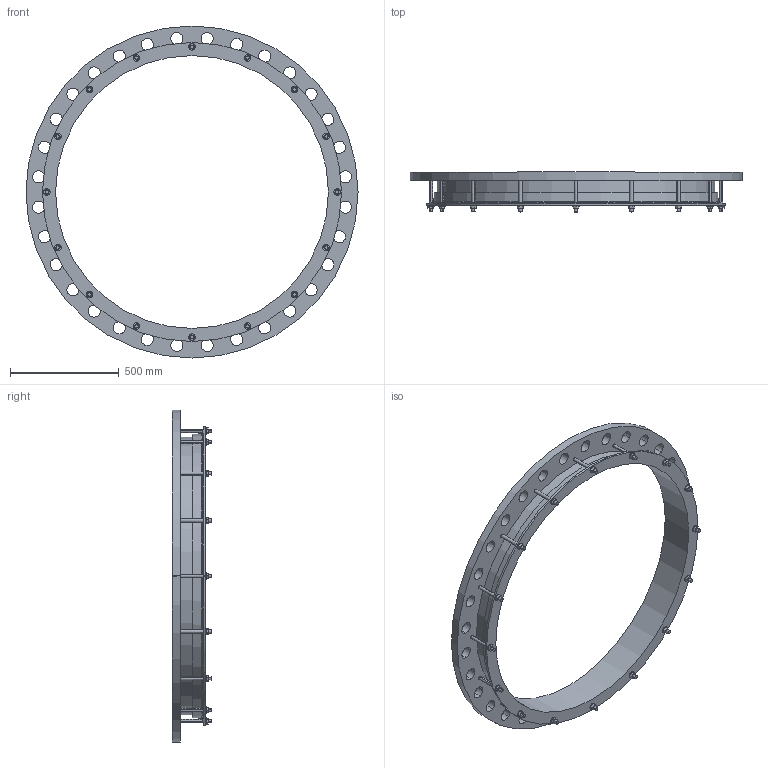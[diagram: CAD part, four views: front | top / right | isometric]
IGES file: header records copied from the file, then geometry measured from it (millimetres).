
Start section:  PTC IGES file: 1255x1200pn25.igs
Global section: file name: 1255x1200pn25.igs; native system: Creo Parametric by PTC Inc.; preprocessor: 2016130; author: mfairey; organization: Unknown; date: 20190404.154536; units: millimetre
Bounding box: 1530 x 182 x 1530 mm (x, y, z)
Surface area: 2993725.6 mm2 (no closed solid volume)
Topology: 0 solids, 0 shells, 322 faces, 1708 edges, 1708 vertices
Faces by surface type: revolution 174, bspline 148
